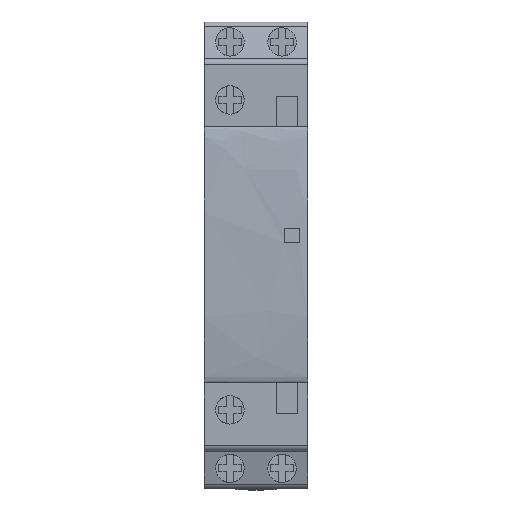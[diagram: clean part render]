
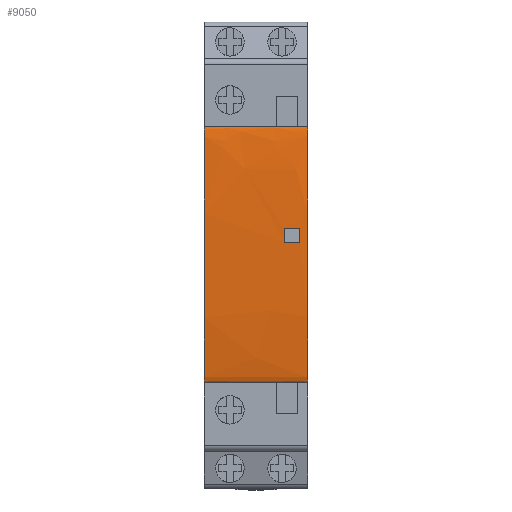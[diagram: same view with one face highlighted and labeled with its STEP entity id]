
A CAD part, top view. The second image highlights one B-rep face of the part: STEP entity #9050.
In plain terms, the highlighted free-form (B-spline) face has degree [3, 1] with [4, 2] control points.
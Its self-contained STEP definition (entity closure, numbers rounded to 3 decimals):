
#64 = ORIENTED_EDGE ( 'NONE', *, *, #1198, .F. ) ;
#194 = CARTESIAN_POINT ( 'NONE',  ( 0., -18.5, 69.65 ) ) ;
#404 = CARTESIAN_POINT ( 'NONE',  ( 18.15, -18.5, 66.65 ) ) ;
#405 = EDGE_CURVE ( 'NONE', #5394, #9314, #5420, .T. ) ;
#512 = CARTESIAN_POINT ( 'NONE',  ( 0., -18.5, 69.65 ) ) ;
#646 = CARTESIAN_POINT ( 'NONE',  ( 18.15, -18.5, 69.65 ) ) ;
#729 = EDGE_LOOP ( 'NONE', ( #978, #64, #5677, #9164 ) ) ;
#835 = VECTOR ( 'NONE', #8988, 1000. ) ;
#978 = ORIENTED_EDGE ( 'NONE', *, *, #8328, .T. ) ;
#1198 = EDGE_CURVE ( 'NONE', #4407, #6448, #8246, .T. ) ;
#1359 = LINE ( 'NONE', #8340, #835 ) ;
#1400 = CARTESIAN_POINT ( 'NONE',  ( 18.15, -18.5, 66.65 ) ) ;
#1645 =( BOUNDED_CURVE ( )  B_SPLINE_CURVE ( 3, ( #1400, #646, #3713, #6030 ),
 .UNSPECIFIED., .F., .F. ) 
 B_SPLINE_CURVE_WITH_KNOTS ( ( 4, 4 ),
 ( 0., 3.142 ),
 .UNSPECIFIED. ) 
 CURVE ( )  GEOMETRIC_REPRESENTATION_ITEM ( )  RATIONAL_B_SPLINE_CURVE ( ( 1., 0.333, 0.333, 1. ) ) 
 REPRESENTATION_ITEM ( '' )  );
#1699 = FACE_OUTER_BOUND ( 'NONE', #729, .T. ) ;
#1746 = CARTESIAN_POINT ( 'NONE',  ( 18.15, -63.5, 69.65 ) ) ;
#1884 = CARTESIAN_POINT ( 'NONE',  ( 14.05, -36.35, 68.118 ) ) ;
#2060 = CARTESIAN_POINT ( 'NONE',  ( 16.75, -37.176, 68.129 ) ) ;
#2071 = CARTESIAN_POINT ( 'NONE',  ( 18.15, -63.5, 66.65 ) ) ;
#2131 = CARTESIAN_POINT ( 'NONE',  ( 14.05, -37.176, 68.129 ) ) ;
#2230 = CARTESIAN_POINT ( 'NONE',  ( 0., -63.5, 66.65 ) ) ;
#2518 = CARTESIAN_POINT ( 'NONE',  ( 14.05, -38.85, 68.143 ) ) ;
#2561 = ORIENTED_EDGE ( 'NONE', *, *, #405, .T. ) ;
#2878 = CARTESIAN_POINT ( 'NONE',  ( 14.05, -38.85, 68.143 ) ) ;
#2975 = CARTESIAN_POINT ( 'NONE',  ( 0., -18.5, 66.65 ) ) ;
#3186 = CARTESIAN_POINT ( 'NONE',  ( 16.75, -36.35, 68.118 ) ) ;
#3574 = ORIENTED_EDGE ( 'NONE', *, *, #8227, .F. ) ;
#3577 = CARTESIAN_POINT ( 'NONE',  ( 0., -63.5, 69.65 ) ) ;
#3683 = CARTESIAN_POINT ( 'NONE',  ( 14.05, -36.35, 68.118 ) ) ;
#3713 = CARTESIAN_POINT ( 'NONE',  ( 18.15, -63.5, 69.65 ) ) ;
#4344 = VERTEX_POINT ( 'NONE', #5487 ) ;
#4407 = VERTEX_POINT ( 'NONE', #9491 ) ;
#4412 = EDGE_CURVE ( 'NONE', #5394, #5192, #7322, .T. ) ;
#4765 = CARTESIAN_POINT ( 'NONE',  ( 0., -18.5, 66.65 ) ) ;
#4892 = EDGE_CURVE ( 'NONE', #9314, #6969, #1359, .T. ) ;
#4912 = ORIENTED_EDGE ( 'NONE', *, *, #4892, .T. ) ;
#4934 = ORIENTED_EDGE ( 'NONE', *, *, #4412, .F. ) ;
#4986 =( BOUNDED_CURVE ( )  B_SPLINE_CURVE ( 3, ( #2975, #512, #3577, #2230 ),
 .UNSPECIFIED., .F., .F. ) 
 B_SPLINE_CURVE_WITH_KNOTS ( ( 4, 4 ),
 ( 0., 3.142 ),
 .UNSPECIFIED. ) 
 CURVE ( )  GEOMETRIC_REPRESENTATION_ITEM ( )  RATIONAL_B_SPLINE_CURVE ( ( 1., 0.333, 0.333, 1. ) ) 
 REPRESENTATION_ITEM ( '' )  );
#5192 = VERTEX_POINT ( 'NONE', #1884 ) ;
#5394 = VERTEX_POINT ( 'NONE', #3186 ) ;
#5420 =( BOUNDED_CURVE ( )  B_SPLINE_CURVE ( 3, ( #7276, #2060, #6674, #6521 ),
 .UNSPECIFIED., .F., .F. ) 
 B_SPLINE_CURVE_WITH_KNOTS ( ( 4, 4 ),
 ( 0., 1. ),
 .UNSPECIFIED. ) 
 CURVE ( )  GEOMETRIC_REPRESENTATION_ITEM ( )  RATIONAL_B_SPLINE_CURVE ( ( 1., 0.999, 0.999, 1. ) ) 
 REPRESENTATION_ITEM ( '' )  );
#5487 = CARTESIAN_POINT ( 'NONE',  ( 0., -18.5, 66.65 ) ) ;
#5651 = VECTOR ( 'NONE', #8783, 1000. ) ;
#5677 = ORIENTED_EDGE ( 'NONE', *, *, #7650, .F. ) ;
#5744 =( BOUNDED_SURFACE ( )  B_SPLINE_SURFACE ( 3, 1, ( 
 ( #9423, #4765 ),
 ( #9376, #194 ),
 ( #1746, #8718 ),
 ( #8672, #7959 ) ),
 .UNSPECIFIED., .F., .F., .F. ) 
 B_SPLINE_SURFACE_WITH_KNOTS ( ( 4, 4 ),
 ( 2, 2 ),
 ( 0., 1. ),
 ( 0., 1. ),
 .UNSPECIFIED. ) 
 GEOMETRIC_REPRESENTATION_ITEM ( )  RATIONAL_B_SPLINE_SURFACE ( (
 ( 1., 1.),
 ( 0.333, 0.333),
 ( 0.333, 0.333),
 ( 1., 1.) ) ) 
 REPRESENTATION_ITEM ( '' )  SURFACE ( )  );
#5921 = CARTESIAN_POINT ( 'NONE',  ( 0., -63.5, 66.65 ) ) ;
#5988 = CARTESIAN_POINT ( 'NONE',  ( 18.15, -18.5, 66.65 ) ) ;
#6030 = CARTESIAN_POINT ( 'NONE',  ( 18.15, -63.5, 66.65 ) ) ;
#6213 = FACE_BOUND ( 'NONE', #6297, .T. ) ;
#6297 = EDGE_LOOP ( 'NONE', ( #4934, #2561, #4912, #3574 ) ) ;
#6448 = VERTEX_POINT ( 'NONE', #5921 ) ;
#6521 = CARTESIAN_POINT ( 'NONE',  ( 16.75, -38.85, 68.143 ) ) ;
#6674 = CARTESIAN_POINT ( 'NONE',  ( 16.75, -38.01, 68.138 ) ) ;
#6676 = LINE ( 'NONE', #5988, #8017 ) ;
#6969 = VERTEX_POINT ( 'NONE', #2518 ) ;
#7214 = EDGE_CURVE ( 'NONE', #8814, #4344, #6676, .T. ) ;
#7276 = CARTESIAN_POINT ( 'NONE',  ( 16.75, -36.35, 68.118 ) ) ;
#7322 = LINE ( 'NONE', #9588, #5651 ) ;
#7442 = CARTESIAN_POINT ( 'NONE',  ( 14.05, -38.009, 68.138 ) ) ;
#7650 = EDGE_CURVE ( 'NONE', #8814, #4407, #1645, .T. ) ;
#7669 = VECTOR ( 'NONE', #8043, 1000. ) ;
#7959 = CARTESIAN_POINT ( 'NONE',  ( 0., -63.5, 66.65 ) ) ;
#8017 = VECTOR ( 'NONE', #9742, 1000. ) ;
#8043 = DIRECTION ( 'NONE',  ( -1., 0., 0. ) ) ;
#8227 = EDGE_CURVE ( 'NONE', #5192, #6969, #9406, .T. ) ;
#8246 = LINE ( 'NONE', #2071, #7669 ) ;
#8328 = EDGE_CURVE ( 'NONE', #4344, #6448, #4986, .T. ) ;
#8340 = CARTESIAN_POINT ( 'NONE',  ( 18.15, -38.85, 68.143 ) ) ;
#8466 = CARTESIAN_POINT ( 'NONE',  ( 16.75, -38.85, 68.143 ) ) ;
#8672 = CARTESIAN_POINT ( 'NONE',  ( 18.15, -63.5, 66.65 ) ) ;
#8718 = CARTESIAN_POINT ( 'NONE',  ( 0., -63.5, 69.65 ) ) ;
#8783 = DIRECTION ( 'NONE',  ( -1., 0., 0. ) ) ;
#8814 = VERTEX_POINT ( 'NONE', #404 ) ;
#8988 = DIRECTION ( 'NONE',  ( -1., 0., 0. ) ) ;
#9050 = ADVANCED_FACE ( 'NONE', ( #6213, #1699 ), #5744, .F. ) ;
#9164 = ORIENTED_EDGE ( 'NONE', *, *, #7214, .T. ) ;
#9314 = VERTEX_POINT ( 'NONE', #8466 ) ;
#9376 = CARTESIAN_POINT ( 'NONE',  ( 18.15, -18.5, 69.65 ) ) ;
#9406 = B_SPLINE_CURVE_WITH_KNOTS ( 'NONE', 3,
 ( #3683, #2131, #7442, #2878 ),
 .UNSPECIFIED., .F., .F.,
 ( 4, 4 ),
 ( 0., 1. ),
 .UNSPECIFIED. ) ;
#9423 = CARTESIAN_POINT ( 'NONE',  ( 18.15, -18.5, 66.65 ) ) ;
#9491 = CARTESIAN_POINT ( 'NONE',  ( 18.15, -63.5, 66.65 ) ) ;
#9588 = CARTESIAN_POINT ( 'NONE',  ( 18.15, -36.35, 68.118 ) ) ;
#9742 = DIRECTION ( 'NONE',  ( -1., 0., 0. ) ) ;
